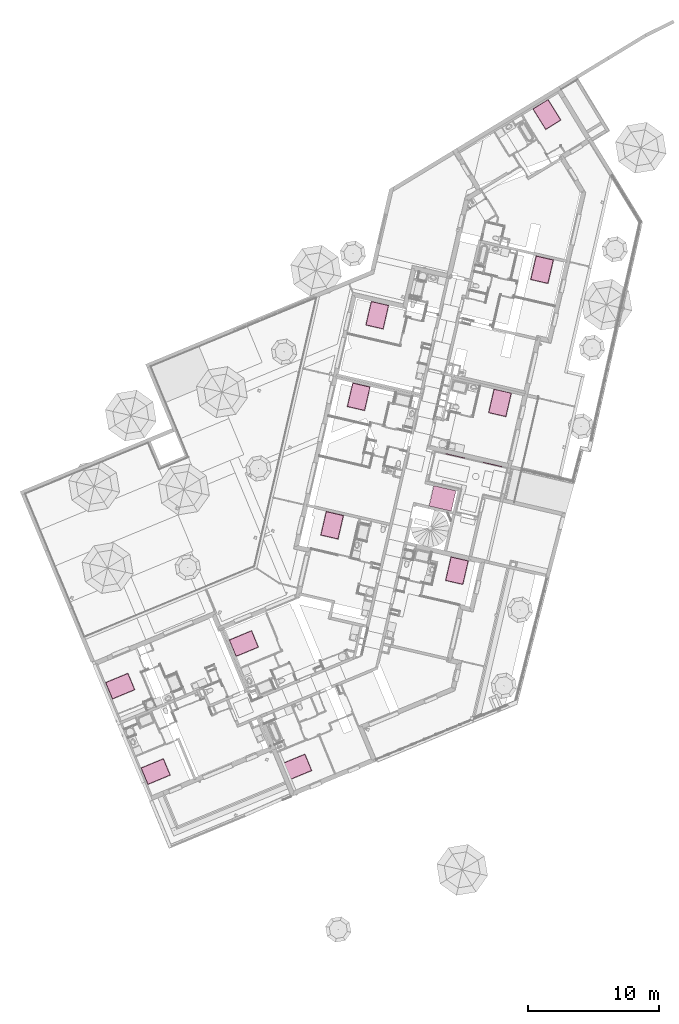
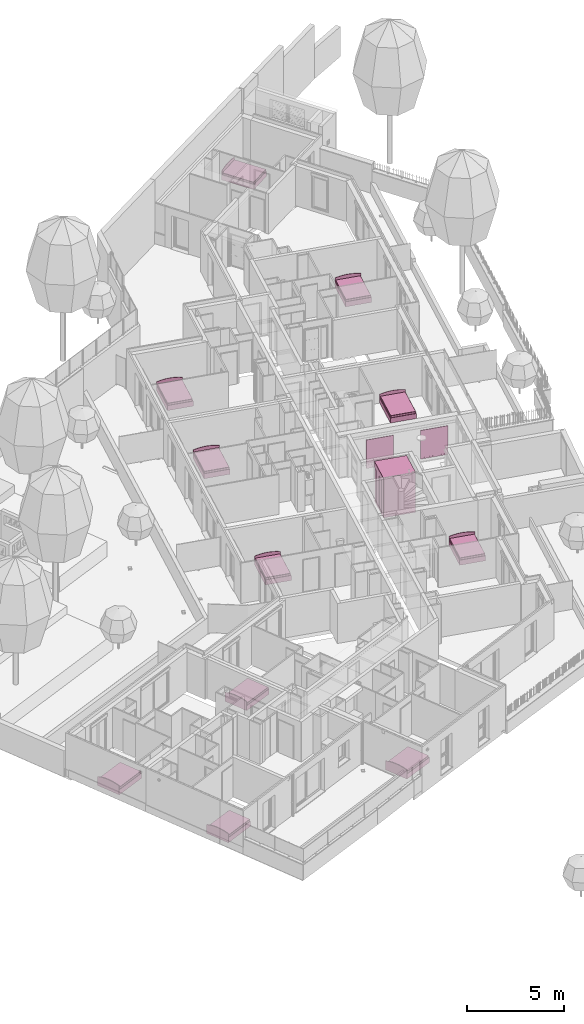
# One storey, part 117 of 119: 13 furnishings, 1 transport element.
"""IFC2X3 building model written with IfcOpenShell, lengths in metres."""

from ifc_helpers import new_model, entity, si_unit, converted_unit, derived_unit, money_unit, direction, frame, origin_with_axes, place, context, subcontext, project, spatial, faceted_brep, source, transform, mapped, type_object, element, save


model = new_model("IFC2X3")

# Units and contexts
model_context = context("Model", 3, precision=1e-05, world=origin_with_axes(), true_north=direction((0.0, 1.0)))
body_context = subcontext(model_context, "Body", "Model", "MODEL_VIEW")
ifc_project = project(units=[si_unit("LENGTHUNIT", "METRE"), si_unit("AREAUNIT", "SQUARE_METRE"), si_unit("VOLUMEUNIT", "CUBIC_METRE"), converted_unit("PLANEANGLEUNIT", "DEGREE", entity("IfcPlaneAngleMeasure", 0.0174532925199), si_unit("PLANEANGLEUNIT", "RADIAN"), dimensions=[0, 0, 0, 0, 0, 0, 0]), si_unit("SOLIDANGLEUNIT", "STERADIAN"), money_unit("EUR"), converted_unit("TIMEUNIT", "Year", entity("IfcTimeMeasure", 31556926.0), si_unit("TIMEUNIT", "SECOND"), dimensions=[0, 0, 1, 0, 0, 0, 0]), si_unit("MASSUNIT", "GRAM", prefix="KILO"), si_unit("THERMODYNAMICTEMPERATUREUNIT", "DEGREE_CELSIUS"), si_unit("LUMINOUSINTENSITYUNIT", "LUMEN"), si_unit("ENERGYUNIT", "JOULE", prefix="MEGA"), derived_unit("THERMALCONDUCTANCEUNIT", [(si_unit("POWERUNIT", "WATT"), 1), (si_unit("LENGTHUNIT", "METRE"), -1), (si_unit("THERMODYNAMICTEMPERATUREUNIT", "KELVIN"), -1)]), derived_unit("SPECIFICHEATCAPACITYUNIT", [(si_unit("ENERGYUNIT", "JOULE"), 1), (si_unit("MASSUNIT", "GRAM", prefix="KILO"), -1), (si_unit("THERMODYNAMICTEMPERATUREUNIT", "KELVIN"), -1)]), derived_unit("MASSDENSITYUNIT", [(si_unit("MASSUNIT", "GRAM", prefix="KILO"), 1), (si_unit("VOLUMEUNIT", "CUBIC_METRE"), -1)])], contexts=[model_context])

# Site, building, storey
site_placement = place(None, origin_with_axes())
site = spatial("IfcSite", under=ifc_project, at=site_placement, Name="Site", CompositionType="ELEMENT")
building_placement = place(site_placement, origin_with_axes())
building = spatial("IfcBuilding", under=site, at=building_placement, Name="Bâtiment", CompositionType="ELEMENT")
storey_placement = place(building_placement, origin_with_axes())
storey = spatial("IfcBuildingStorey", under=building, at=storey_placement, Name="Rez-de-chaussée", CompositionType="ELEMENT", Elevation=0.0)

# Furnishings
furniture_type = type_object("IfcFurnitureType", Name="Lit double 23", AssemblyPlace="NOTDEFINED")
shared_shape_1 = source(origin_with_axes(), body_context, "Body", "Brep", [
    faceted_brep([(0.0, 1.9, 0.0), (1.4, 1.9, 0.0), (1.4, 1.87, 0.0), (0.0, 1.87, 0.0), (0.0, 1.9, 0.56), (0.229826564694, 1.9, 0.615389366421), (0.463857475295, 1.9, 0.64882235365), (0.7, 1.9, 0.66), (0.936142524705, 1.9, 0.64882235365), (1.17017343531, 1.9, 0.615389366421), (1.4, 1.9, 0.56), (1.4, 1.9, 0.5599), (1.4, 1.87, 0.5599), (1.4, 1.87, 0.56), (1.17017343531, 1.87, 0.615389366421), (0.936142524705, 1.87, 0.64882235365), (0.7, 1.87, 0.66), (0.463857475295, 1.87, 0.64882235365), (0.229826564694, 1.87, 0.615389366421), (0.0, 1.87, 0.56)], [[[0, 1, 2, 3]], [[0, 4, 5, 6, 7, 8, 9, 10, 11, 1]], [[1, 11, 12, 2]], [[3, 2, 12, 13, 14, 15, 16, 17, 18, 19]], [[4, 0, 3, 19]], [[5, 4, 19, 18]], [[6, 5, 18, 17]], [[7, 6, 17, 16]], [[8, 7, 16, 15]], [[9, 8, 15, 14]], [[10, 9, 14, 13]], [[11, 10, 13, 12]]]),
    faceted_brep([(1.4, 0.0, 0.0), (0.0, 0.0, 0.0), (0.0, 1.87, 0.0), (1.4, 1.87, 0.0), (1.4, 0.0, 0.32), (0.0, 0.0, 0.32), (0.0, 1.87, 0.32), (1.4, 1.87, 0.32)], [[[0, 1, 2, 3]], [[1, 0, 4, 5]], [[2, 1, 5, 6]], [[3, 2, 6, 7]], [[0, 3, 7, 4]], [[5, 4, 7, 6]]]),
    faceted_brep([(0.02, 0.04, 0.35), (0.02, 1.85, 0.35), (0.0215224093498, 1.85765366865, 0.35), (0.0258578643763, 1.86414213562, 0.35), (0.0323463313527, 1.86847759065, 0.35), (0.04, 1.87, 0.35), (1.36, 1.87, 0.35), (1.36765366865, 1.86847759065, 0.35), (1.37414213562, 1.86414213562, 0.35), (1.37847759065, 1.85765366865, 0.35), (1.38, 1.85, 0.35), (1.38, 0.04, 0.35), (1.37847759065, 0.0323463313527, 0.35), (1.37414213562, 0.0258578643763, 0.35), (1.36765366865, 0.0215224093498, 0.35), (1.36, 0.02, 0.35), (0.04, 0.02, 0.35), (0.0323463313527, 0.0215224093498, 0.35), (0.0258578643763, 0.0258578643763, 0.35), (0.0215224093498, 0.0323463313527, 0.35), (0.0199999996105, 0.0400000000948, 0.42), (0.0199999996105, 1.84999999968, 0.42), (0.0215224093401, 1.85765366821, 0.42), (0.0258578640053, 1.86414213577, 0.42), (0.0323463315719, 1.86847759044, 0.42), (0.0400000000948, 1.87000000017, 0.42), (1.36000000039, 1.87000000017, 0.42), (1.36765366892, 1.86847759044, 0.42), (1.37414213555, 1.86414213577, 0.42), (1.37847759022, 1.85765366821, 0.42), (1.37999999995, 1.84999999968, 0.42), (1.37999999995, 0.0400000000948, 0.42), (1.37847759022, 0.0323463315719, 0.42), (1.37414213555, 0.0258578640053, 0.42), (1.36765366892, 0.0215224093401, 0.42), (1.36000000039, 0.0199999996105, 0.42), (0.0400000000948, 0.0199999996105, 0.42), (0.0323463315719, 0.0215224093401, 0.42), (0.0258578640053, 0.0258578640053, 0.42), (0.0215224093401, 0.0323463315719, 0.42), (0.0215224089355, 0.0401499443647, 0.427653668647), (0.0215224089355, 1.84985005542, 0.427653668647), (0.0229564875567, 1.85705965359, 0.427653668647), (0.0269554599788, 1.8630445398, 0.427653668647), (0.0329403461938, 1.86704351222, 0.427653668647), (0.0401499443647, 1.86847759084, 0.427653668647), (1.35985005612, 1.86847759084, 0.427653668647), (1.36705965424, 1.86704351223, 0.427653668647), (1.37304453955, 1.86304453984, 0.427653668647), (1.377043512, 1.85705965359, 0.427653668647), (1.37847759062, 1.84985005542, 0.427653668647), (1.37847759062, 0.0401499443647, 0.427653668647), (1.377043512, 0.0329403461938, 0.427653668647), (1.37304453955, 0.0269554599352, 0.427653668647), (1.36705965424, 0.0229564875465, 0.427653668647), (1.35985005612, 0.0215224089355, 0.427653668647), (0.0401499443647, 0.0215224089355, 0.427653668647), (0.0329403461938, 0.0229564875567, 0.427653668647), (0.0269554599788, 0.0269554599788, 0.427653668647), (0.0229564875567, 0.0329403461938, 0.427653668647), (0.0323463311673, 0.0412160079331, 0.43847759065), (0.0323463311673, 1.84878399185, 0.43847759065), (0.0331523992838, 1.85283636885, 0.43847759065), (0.0347590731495, 1.85524092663, 0.43847759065), (0.0371636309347, 1.8568476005, 0.43847759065), (0.0412160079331, 1.85765366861, 0.43847759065), (1.35878399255, 1.85765366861, 0.43847759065), (1.36283636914, 1.85684760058, 0.43847759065), (1.36524092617, 1.85524092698, 0.43847759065), (1.36684760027, 1.85283636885, 0.43847759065), (1.36765366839, 1.84878399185, 0.43847759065), (1.36765366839, 0.0412160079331, 0.43847759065), (1.36684760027, 0.0371636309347, 0.43847759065), (1.36524092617, 0.0347590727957, 0.43847759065), (1.36283636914, 0.0331523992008, 0.43847759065), (1.35878399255, 0.0323463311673, 0.43847759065), (0.0412160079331, 0.0323463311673, 0.43847759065), (0.0371636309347, 0.0331523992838, 0.43847759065), (0.0347590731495, 0.0347590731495, 0.43847759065), (0.0331523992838, 0.0371636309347, 0.43847759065), (0.0400000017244, 0.0419698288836, 0.44000000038), (0.0400000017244, 1.8480301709, 0.44000000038), (0.0403268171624, 1.84967318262, 0.44000000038), (0.0399999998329, 1.84999999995, 0.439923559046), (0.0419698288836, 1.84999999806, 0.44000000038), (1.3580301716, 1.84999999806, 0.44000000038), (1.35967318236, 1.84967318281, 0.44000000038), (1.35999999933, 1.84999999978, 0.439923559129), (1.35999999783, 1.8480301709, 0.44000000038), (1.35999999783, 0.0419698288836, 0.44000000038), (1.35967318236, 0.0403268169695, 0.44000000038), (1.35999999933, 0.0399999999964, 0.439923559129), (1.3580301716, 0.0400000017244, 0.44000000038), (0.0419698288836, 0.0400000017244, 0.44000000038), (0.0403268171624, 0.0403268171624, 0.44000000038), (0.0399999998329, 0.0399999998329, 0.439923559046)], [[[0, 1, 2, 3, 4, 5, 6, 7, 8, 9, 10, 11, 12, 13, 14, 15, 16, 17, 18, 19]], [[1, 0, 20, 21]], [[2, 1, 21, 22]], [[3, 2, 22, 23]], [[4, 3, 23, 24]], [[5, 4, 24, 25]], [[6, 5, 25, 26]], [[7, 6, 26, 27]], [[8, 7, 27, 28]], [[9, 8, 28, 29]], [[10, 9, 29, 30]], [[11, 10, 30, 31]], [[12, 11, 31, 32]], [[13, 12, 32, 33]], [[14, 13, 33, 34]], [[15, 14, 34, 35]], [[16, 15, 35, 36]], [[17, 16, 36, 37]], [[18, 17, 37, 38]], [[19, 18, 38, 39]], [[0, 19, 39, 20]], [[21, 20, 40, 41]], [[22, 21, 41, 42]], [[23, 22, 42, 43]], [[24, 23, 43, 44]], [[25, 24, 44, 45]], [[26, 25, 45, 46]], [[27, 26, 46, 47]], [[28, 27, 47, 48]], [[29, 28, 48, 49]], [[30, 29, 49, 50]], [[31, 30, 50, 51]], [[32, 31, 51, 52]], [[33, 32, 52, 53]], [[34, 33, 53, 54]], [[35, 34, 54, 55]], [[36, 35, 55, 56]], [[37, 36, 56, 57]], [[38, 37, 57, 58]], [[39, 38, 58, 59]], [[20, 39, 59, 40]], [[41, 40, 60, 61]], [[42, 41, 61, 62]], [[43, 42, 62, 63]], [[44, 43, 63, 64]], [[45, 44, 64, 65]], [[46, 45, 65, 66]], [[47, 46, 66, 67]], [[48, 47, 67, 68]], [[49, 48, 68, 69]], [[50, 49, 69, 70]], [[51, 50, 70, 71]], [[52, 51, 71, 72]], [[53, 52, 72, 73]], [[54, 53, 73, 74]], [[55, 54, 74, 75]], [[56, 55, 75, 76]], [[57, 56, 76, 77]], [[58, 57, 77, 78]], [[59, 58, 78, 79]], [[40, 59, 79, 60]], [[61, 60, 80, 81]], [[62, 61, 81, 82, 83]], [[63, 62, 83]], [[64, 63, 83]], [[65, 64, 83, 82, 84]], [[66, 65, 84, 85]], [[67, 66, 85, 86, 87]], [[68, 67, 87]], [[69, 68, 87]], [[70, 69, 87, 86, 88]], [[71, 70, 88, 89]], [[72, 71, 89, 90, 91]], [[73, 72, 91]], [[74, 73, 91]], [[75, 74, 91, 90, 92]], [[76, 75, 92, 93]], [[77, 76, 93, 94, 95]], [[78, 77, 95]], [[79, 78, 95]], [[60, 79, 95, 94, 80]], [[81, 80, 94, 93, 92, 90, 89, 88, 86, 85, 84, 82]]]),
    faceted_brep([(0.02, 0.04, 0.35), (0.0215224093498, 0.0323463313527, 0.35), (0.0258578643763, 0.0258578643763, 0.35), (0.0323463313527, 0.0215224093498, 0.35), (0.04, 0.02, 0.35), (1.36, 0.02, 0.35), (1.36765366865, 0.0215224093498, 0.35), (1.37414213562, 0.0258578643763, 0.35), (1.37847759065, 0.0323463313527, 0.35), (1.38, 0.04, 0.35), (1.38, 1.85, 0.35), (1.37847759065, 1.85765366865, 0.35), (1.37414213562, 1.86414213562, 0.35), (1.36765366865, 1.86847759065, 0.35), (1.36, 1.87, 0.35), (0.04, 1.87, 0.35), (0.0323463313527, 1.86847759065, 0.35), (0.0258578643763, 1.86414213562, 0.35), (0.0215224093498, 1.85765366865, 0.35), (0.02, 1.85, 0.35), (0.0199999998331, 0.0400000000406, 0.32), (0.0215224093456, 0.0323463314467, 0.32), (0.0258578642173, 0.0258578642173, 0.32), (0.0323463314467, 0.0215224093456, 0.32), (0.0400000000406, 0.0199999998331, 0.32), (1.36000000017, 0.0199999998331, 0.32), (1.36765366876, 0.0215224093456, 0.32), (1.37414213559, 0.0258578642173, 0.32), (1.37847759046, 0.0323463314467, 0.32), (1.37999999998, 0.0400000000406, 0.32), (1.37999999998, 1.84999999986, 0.32), (1.37847759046, 1.85765366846, 0.32), (1.37414213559, 1.86414213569, 0.32), (1.36765366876, 1.86847759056, 0.32), (1.36000000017, 1.87000000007, 0.32), (0.0400000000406, 1.87000000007, 0.32), (0.0323463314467, 1.86847759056, 0.32), (0.0258578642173, 1.86414213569, 0.32), (0.0215224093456, 1.85765366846, 0.32), (0.0199999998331, 1.84999999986, 0.32)], [[[0, 1, 2, 3, 4, 5, 6, 7, 8, 9, 10, 11, 12, 13, 14, 15, 16, 17, 18, 19]], [[0, 20, 21, 1]], [[1, 21, 22, 2]], [[2, 22, 23, 3]], [[3, 23, 24, 4]], [[4, 24, 25, 5]], [[5, 25, 26, 6]], [[6, 26, 27, 7]], [[7, 27, 28, 8]], [[8, 28, 29, 9]], [[9, 29, 30, 10]], [[10, 30, 31, 11]], [[11, 31, 32, 12]], [[12, 32, 33, 13]], [[13, 33, 34, 14]], [[14, 34, 35, 15]], [[15, 35, 36, 16]], [[16, 36, 37, 17]], [[17, 37, 38, 18]], [[18, 38, 39, 19]], [[19, 39, 20, 0]], [[20, 39, 38, 37, 36, 35, 34, 33, 32, 31, 30, 29, 28, 27, 26, 25, 24, 23, 22, 21]]]),
])
for number, where, z_axis, x_axis, name in (
    (1, (-14.4681545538, 7.8483588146, 0.0), (0.0, 0.0, 1.0), (0.974387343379, -0.224876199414, 0.0), "MOB-002"),
    (2, (-8.3706438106, -11.7000553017, 0.0), (0.0, 0.0, 1.0), (0.974387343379, -0.224876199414, 0.0), "MOB-002"),
    (3, (-15.8879577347, 1.60742158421, 0.0), (0.0, 0.0, 1.0), (0.974387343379, -0.224876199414, 0.0), "MOB-002"),
    (4, (-17.9203593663, -8.22757564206, 0.0), (0.0, 0.0, 1.0), (0.974387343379, -0.224876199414, 0.0), "MOB-002"),
    (5, (-22.6409793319, -16.7982077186, 0.0), (0.0, 0.0, 1.0), (-0.383112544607, 0.923701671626, 0.0), "MOB-002"),
    (6, (-29.3884122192, -26.5927265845, 0.0), (0.0, 0.0, 1.0), (-0.383112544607, 0.923701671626, 0.0), "MOB-002"),
    (7, (-32.1025411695, -20.056665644, 0.0), (0.0, 0.0, 1.0), (-0.383112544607, 0.923701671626, 0.0), "MOB-002"),
    (8, (-18.5614836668, -26.2425264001, 0.0), (0.0, 0.0, 1.0), (-0.383112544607, 0.923701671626, 0.0), "MOB-002"),
    (9, (-5.07635258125, 1.13960423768, 0.0), (0.0, 0.0, 1.0), (0.974387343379, -0.224876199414, 0.0), "MOB-002"),
):
    element("IfcFurnishingElement", number, at=place(storey_placement, frame(where, z_axis=z_axis, x_axis=x_axis)), inside=storey, type_object=furniture_type, Name=name, ObjectType="BED", context=body_context, shape_type="MappedRepresentation", body=[
        mapped(shared_shape_1, transform((0.0, 0.0, 0.0))),
    ])
shared_shape_2 = source(origin_with_axes(), body_context, "Body", "Brep", [
    faceted_brep([(0.0, 1.9, 0.0), (0.0, 1.87, 0.0), (-1.4, 1.87, 0.0), (-1.4, 1.9, 0.0), (0.0, 1.9, 0.56), (0.0, 1.87, 0.56), (-0.229826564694, 1.87, 0.615389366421), (-0.463857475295, 1.87, 0.64882235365), (-0.7, 1.87, 0.66), (-0.936142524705, 1.87, 0.64882235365), (-1.17017343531, 1.87, 0.615389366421), (-1.4, 1.87, 0.56), (-1.4, 1.87, 0.5599), (-1.4, 1.9, 0.5599), (-1.4, 1.9, 0.56), (-1.17017343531, 1.9, 0.615389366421), (-0.936142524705, 1.9, 0.64882235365), (-0.7, 1.9, 0.66), (-0.463857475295, 1.9, 0.64882235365), (-0.229826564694, 1.9, 0.615389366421)], [[[0, 1, 2, 3]], [[4, 5, 1, 0]], [[1, 5, 6, 7, 8, 9, 10, 11, 12, 2]], [[3, 2, 12, 13]], [[0, 3, 13, 14, 15, 16, 17, 18, 19, 4]], [[19, 6, 5, 4]], [[18, 7, 6, 19]], [[17, 8, 7, 18]], [[16, 9, 8, 17]], [[15, 10, 9, 16]], [[14, 11, 10, 15]], [[13, 12, 11, 14]]]),
    faceted_brep([(-1.4, 0.0, 0.0), (-1.4, 1.87, 0.0), (0.0, 1.87, 0.0), (0.0, 0.0, 0.0), (-1.4, 0.0, 0.32), (-1.4, 1.87, 0.32), (0.0, 1.87, 0.32), (0.0, 0.0, 0.32)], [[[0, 1, 2, 3]], [[0, 4, 5, 1]], [[1, 5, 6, 2]], [[2, 6, 7, 3]], [[3, 7, 4, 0]], [[7, 6, 5, 4]]]),
    faceted_brep([(-0.02, 0.04, 0.35), (-0.0215224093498, 0.0323463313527, 0.35), (-0.0258578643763, 0.0258578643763, 0.35), (-0.0323463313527, 0.0215224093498, 0.35), (-0.04, 0.02, 0.35), (-1.36, 0.02, 0.35), (-1.36765366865, 0.0215224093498, 0.35), (-1.37414213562, 0.0258578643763, 0.35), (-1.37847759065, 0.0323463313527, 0.35), (-1.38, 0.04, 0.35), (-1.38, 1.85, 0.35), (-1.37847759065, 1.85765366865, 0.35), (-1.37414213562, 1.86414213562, 0.35), (-1.36765366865, 1.86847759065, 0.35), (-1.36, 1.87, 0.35), (-0.04, 1.87, 0.35), (-0.0323463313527, 1.86847759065, 0.35), (-0.0258578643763, 1.86414213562, 0.35), (-0.0215224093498, 1.85765366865, 0.35), (-0.02, 1.85, 0.35), (-0.0199999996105, 0.0400000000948, 0.42), (-0.0215224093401, 0.0323463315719, 0.42), (-0.0258578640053, 0.0258578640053, 0.42), (-0.0323463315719, 0.0215224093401, 0.42), (-0.0400000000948, 0.0199999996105, 0.42), (-1.36000000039, 0.0199999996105, 0.42), (-1.36765366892, 0.0215224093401, 0.42), (-1.37414213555, 0.0258578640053, 0.42), (-1.37847759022, 0.0323463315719, 0.42), (-1.37999999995, 0.0400000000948, 0.42), (-1.37999999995, 1.84999999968, 0.42), (-1.37847759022, 1.85765366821, 0.42), (-1.37414213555, 1.86414213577, 0.42), (-1.36765366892, 1.86847759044, 0.42), (-1.36000000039, 1.87000000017, 0.42), (-0.0400000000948, 1.87000000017, 0.42), (-0.0323463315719, 1.86847759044, 0.42), (-0.0258578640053, 1.86414213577, 0.42), (-0.0215224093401, 1.85765366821, 0.42), (-0.0199999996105, 1.84999999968, 0.42), (-0.0215224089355, 0.0401499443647, 0.427653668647), (-0.0229564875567, 0.0329403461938, 0.427653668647), (-0.0269554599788, 0.0269554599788, 0.427653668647), (-0.0329403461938, 0.0229564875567, 0.427653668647), (-0.0401499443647, 0.0215224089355, 0.427653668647), (-1.35985005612, 0.0215224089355, 0.427653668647), (-1.36705965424, 0.0229564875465, 0.427653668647), (-1.37304453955, 0.0269554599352, 0.427653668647), (-1.377043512, 0.0329403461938, 0.427653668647), (-1.37847759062, 0.0401499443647, 0.427653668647), (-1.37847759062, 1.84985005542, 0.427653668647), (-1.377043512, 1.85705965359, 0.427653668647), (-1.37304453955, 1.86304453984, 0.427653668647), (-1.36705965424, 1.86704351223, 0.427653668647), (-1.35985005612, 1.86847759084, 0.427653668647), (-0.0401499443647, 1.86847759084, 0.427653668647), (-0.0329403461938, 1.86704351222, 0.427653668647), (-0.0269554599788, 1.8630445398, 0.427653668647), (-0.0229564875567, 1.85705965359, 0.427653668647), (-0.0215224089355, 1.84985005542, 0.427653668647), (-0.0323463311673, 0.0412160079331, 0.43847759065), (-0.0331523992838, 0.0371636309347, 0.43847759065), (-0.0347590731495, 0.0347590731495, 0.43847759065), (-0.0371636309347, 0.0331523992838, 0.43847759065), (-0.0412160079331, 0.0323463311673, 0.43847759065), (-1.35878399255, 0.0323463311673, 0.43847759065), (-1.36283636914, 0.0331523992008, 0.43847759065), (-1.36524092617, 0.0347590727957, 0.43847759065), (-1.36684760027, 0.0371636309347, 0.43847759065), (-1.36765366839, 0.0412160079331, 0.43847759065), (-1.36765366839, 1.84878399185, 0.43847759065), (-1.36684760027, 1.85283636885, 0.43847759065), (-1.36524092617, 1.85524092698, 0.43847759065), (-1.36283636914, 1.85684760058, 0.43847759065), (-1.35878399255, 1.85765366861, 0.43847759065), (-0.0412160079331, 1.85765366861, 0.43847759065), (-0.0371636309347, 1.8568476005, 0.43847759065), (-0.0347590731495, 1.85524092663, 0.43847759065), (-0.0331523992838, 1.85283636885, 0.43847759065), (-0.0323463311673, 1.84878399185, 0.43847759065), (-0.0400000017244, 0.0419698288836, 0.44000000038), (-0.0403268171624, 0.0403268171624, 0.44000000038), (-0.0399999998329, 0.0399999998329, 0.439923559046), (-0.0419698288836, 0.0400000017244, 0.44000000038), (-1.3580301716, 0.0400000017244, 0.44000000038), (-1.35967318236, 0.0403268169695, 0.44000000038), (-1.35999999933, 0.0399999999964, 0.439923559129), (-1.35999999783, 0.0419698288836, 0.44000000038), (-1.35999999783, 1.8480301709, 0.44000000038), (-1.35967318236, 1.84967318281, 0.44000000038), (-1.35999999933, 1.84999999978, 0.439923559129), (-1.3580301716, 1.84999999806, 0.44000000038), (-0.0419698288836, 1.84999999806, 0.44000000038), (-0.0403268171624, 1.84967318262, 0.44000000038), (-0.0399999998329, 1.84999999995, 0.439923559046), (-0.0400000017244, 1.8480301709, 0.44000000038)], [[[0, 1, 2, 3, 4, 5, 6, 7, 8, 9, 10, 11, 12, 13, 14, 15, 16, 17, 18, 19]], [[0, 20, 21, 1]], [[1, 21, 22, 2]], [[2, 22, 23, 3]], [[3, 23, 24, 4]], [[4, 24, 25, 5]], [[5, 25, 26, 6]], [[6, 26, 27, 7]], [[7, 27, 28, 8]], [[8, 28, 29, 9]], [[9, 29, 30, 10]], [[10, 30, 31, 11]], [[11, 31, 32, 12]], [[12, 32, 33, 13]], [[13, 33, 34, 14]], [[14, 34, 35, 15]], [[15, 35, 36, 16]], [[16, 36, 37, 17]], [[17, 37, 38, 18]], [[18, 38, 39, 19]], [[19, 39, 20, 0]], [[20, 40, 41, 21]], [[21, 41, 42, 22]], [[22, 42, 43, 23]], [[23, 43, 44, 24]], [[24, 44, 45, 25]], [[25, 45, 46, 26]], [[26, 46, 47, 27]], [[27, 47, 48, 28]], [[28, 48, 49, 29]], [[29, 49, 50, 30]], [[30, 50, 51, 31]], [[31, 51, 52, 32]], [[32, 52, 53, 33]], [[33, 53, 54, 34]], [[34, 54, 55, 35]], [[35, 55, 56, 36]], [[36, 56, 57, 37]], [[37, 57, 58, 38]], [[38, 58, 59, 39]], [[39, 59, 40, 20]], [[40, 60, 61, 41]], [[41, 61, 62, 42]], [[42, 62, 63, 43]], [[43, 63, 64, 44]], [[44, 64, 65, 45]], [[45, 65, 66, 46]], [[46, 66, 67, 47]], [[47, 67, 68, 48]], [[48, 68, 69, 49]], [[49, 69, 70, 50]], [[50, 70, 71, 51]], [[51, 71, 72, 52]], [[52, 72, 73, 53]], [[53, 73, 74, 54]], [[54, 74, 75, 55]], [[55, 75, 76, 56]], [[56, 76, 77, 57]], [[57, 77, 78, 58]], [[58, 78, 79, 59]], [[59, 79, 60, 40]], [[60, 80, 81, 82, 61]], [[61, 82, 62]], [[62, 82, 63]], [[63, 82, 81, 83, 64]], [[64, 83, 84, 65]], [[65, 84, 85, 86, 66]], [[66, 86, 67]], [[67, 86, 68]], [[68, 86, 85, 87, 69]], [[69, 87, 88, 70]], [[70, 88, 89, 90, 71]], [[71, 90, 72]], [[72, 90, 73]], [[73, 90, 89, 91, 74]], [[74, 91, 92, 75]], [[75, 92, 93, 94, 76]], [[76, 94, 77]], [[77, 94, 78]], [[78, 94, 93, 95, 79]], [[79, 95, 80, 60]], [[95, 93, 92, 91, 89, 88, 87, 85, 84, 83, 81, 80]]]),
    faceted_brep([(-0.02, 0.04, 0.35), (-0.02, 1.85, 0.35), (-0.0215224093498, 1.85765366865, 0.35), (-0.0258578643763, 1.86414213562, 0.35), (-0.0323463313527, 1.86847759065, 0.35), (-0.04, 1.87, 0.35), (-1.36, 1.87, 0.35), (-1.36765366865, 1.86847759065, 0.35), (-1.37414213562, 1.86414213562, 0.35), (-1.37847759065, 1.85765366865, 0.35), (-1.38, 1.85, 0.35), (-1.38, 0.04, 0.35), (-1.37847759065, 0.0323463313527, 0.35), (-1.37414213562, 0.0258578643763, 0.35), (-1.36765366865, 0.0215224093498, 0.35), (-1.36, 0.02, 0.35), (-0.04, 0.02, 0.35), (-0.0323463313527, 0.0215224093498, 0.35), (-0.0258578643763, 0.0258578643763, 0.35), (-0.0215224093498, 0.0323463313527, 0.35), (-0.0199999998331, 0.0400000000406, 0.32), (-0.0199999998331, 1.84999999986, 0.32), (-0.0215224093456, 1.85765366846, 0.32), (-0.0258578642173, 1.86414213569, 0.32), (-0.0323463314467, 1.86847759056, 0.32), (-0.0400000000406, 1.87000000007, 0.32), (-1.36000000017, 1.87000000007, 0.32), (-1.36765366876, 1.86847759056, 0.32), (-1.37414213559, 1.86414213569, 0.32), (-1.37847759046, 1.85765366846, 0.32), (-1.37999999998, 1.84999999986, 0.32), (-1.37999999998, 0.0400000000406, 0.32), (-1.37847759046, 0.0323463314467, 0.32), (-1.37414213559, 0.0258578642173, 0.32), (-1.36765366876, 0.0215224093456, 0.32), (-1.36000000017, 0.0199999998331, 0.32), (-0.0400000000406, 0.0199999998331, 0.32), (-0.0323463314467, 0.0215224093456, 0.32), (-0.0258578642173, 0.0258578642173, 0.32), (-0.0215224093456, 0.0323463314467, 0.32)], [[[0, 1, 2, 3, 4, 5, 6, 7, 8, 9, 10, 11, 12, 13, 14, 15, 16, 17, 18, 19]], [[1, 0, 20, 21]], [[2, 1, 21, 22]], [[3, 2, 22, 23]], [[4, 3, 23, 24]], [[5, 4, 24, 25]], [[6, 5, 25, 26]], [[7, 6, 26, 27]], [[8, 7, 27, 28]], [[9, 8, 28, 29]], [[10, 9, 29, 30]], [[11, 10, 30, 31]], [[12, 11, 31, 32]], [[13, 12, 32, 33]], [[14, 13, 33, 34]], [[15, 14, 34, 35]], [[16, 15, 35, 36]], [[17, 16, 36, 37]], [[18, 17, 37, 38]], [[19, 18, 38, 39]], [[0, 19, 39, 20]], [[20, 39, 38, 37, 36, 35, 34, 33, 32, 31, 30, 29, 28, 27, 26, 25, 24, 23, 22, 21]]]),
])
for number, where, z_axis, x_axis, name in (
    (10, (0.501939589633, 23.5376664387, 0.0), (0.0, 0.0, 1.0), (0.848007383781, 0.529984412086, 0.0), "MOB-002"),
    (11, (-0.493133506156, 11.0118005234, 0.0), (0.0, 0.0, 1.0), (0.974387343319, -0.224876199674, 0.0), "MOB-002"),
):
    element("IfcFurnishingElement", number, at=place(storey_placement, frame(where, z_axis=z_axis, x_axis=x_axis)), inside=storey, type_object=furniture_type, Name=name, ObjectType="BED", context=body_context, shape_type="MappedRepresentation", body=[
        mapped(shared_shape_2, transform((0.0, 0.0, 0.0))),
    ])

# Transport element
transport_element_type = type_object("IfcTransportElementType", Name="Ascenseur 23", PredefinedType="ELEVATOR")
shared_shape_3 = source(origin_with_axes(), body_context, "Body", "Brep", [
    faceted_brep([(0.95, 0.21, 0.0), (0.5, 0.21, 0.0), (0.5, 0.21, 2.1), (0.95, 0.21, 2.1), (0.95, 0.19, 0.0), (0.5, 0.19, 0.0), (0.5, 0.19, 2.1), (0.95, 0.19, 2.1)], [[[0, 1, 2, 3]], [[1, 0, 4, 5]], [[2, 1, 5, 6]], [[3, 2, 6, 7]], [[0, 3, 7, 4]], [[5, 4, 7, 6]]]),
    faceted_brep([(1.4, 0.23, 0.0), (0.95, 0.23, 0.0), (0.95, 0.23, 2.1), (1.4, 0.23, 2.1), (1.4, 0.21, 0.0), (0.95, 0.21, 0.0), (0.95, 0.21, 2.1), (1.4, 0.21, 2.1)], [[[0, 1, 2, 3]], [[1, 0, 4, 5]], [[2, 1, 5, 6]], [[3, 2, 6, 7]], [[0, 3, 7, 4]], [[5, 4, 7, 6]]]),
    faceted_brep([(1.4, 0.27, 0.0), (1.669, 0.27, 0.0), (1.669, 1.85, 0.0), (0.231, 1.85, 0.0), (0.231, 0.27, 0.0), (0.5, 0.27, 0.0), (0.5, 0.23, 0.0), (0.151, 0.23, 0.0), (0.151, 1.93, 0.0), (1.749, 1.93, 0.0), (1.749, 0.19, 0.0), (1.4, 0.19, 0.0), (0.231, 0.27, 2.4), (1.669, 0.27, 2.4), (1.4, 0.27, 2.1), (0.5, 0.27, 2.1), (1.669, 1.85, 2.4), (0.231, 1.85, 2.4), (0.5, 0.23, 2.1), (0.151, 0.23, 2.1), (0.151, 0.19, 2.1), (0.151, 0.19, 2.4), (0.151, 1.93, 2.4), (1.749, 1.93, 2.4), (1.749, 0.19, 2.4), (1.4, 0.19, 2.1)], [[[0, 1, 2, 3, 4, 5, 6, 7, 8, 9, 10, 11]], [[12, 13, 1, 0, 14, 15, 5, 4]], [[13, 16, 2, 1]], [[16, 17, 3, 2]], [[17, 12, 4, 3]], [[5, 15, 18, 6]], [[18, 19, 7, 6]], [[19, 20, 21, 22, 8, 7]], [[23, 9, 8, 22]], [[24, 10, 9, 23]], [[21, 20, 25, 11, 10, 24]], [[14, 0, 11, 25]], [[22, 21, 24, 23], [12, 17, 16, 13]], [[15, 14, 25, 20, 19, 18]]]),
    faceted_brep([(0.151, 0.19, -0.05), (1.749, 0.19, -0.05), (1.749, 0.19, 0.0), (0.151, 0.19, 0.0), (0.151, 1.93, -0.05), (1.749, 1.93, -0.05), (1.749, 1.93, 0.0), (0.151, 1.93, 0.0)], [[[0, 1, 2, 3]], [[0, 4, 5, 1]], [[1, 5, 6, 2]], [[3, 2, 6, 7]], [[4, 0, 3, 7]], [[5, 4, 7, 6]]]),
    faceted_brep([(0.151, 0.19, 2.4), (1.749, 0.19, 2.4), (1.749, 0.19, 2.45), (0.151, 0.19, 2.45), (0.151, 1.93, 2.4), (1.749, 1.93, 2.4), (1.749, 1.93, 2.45), (0.151, 1.93, 2.45)], [[[0, 1, 2, 3]], [[0, 4, 5, 1]], [[1, 5, 6, 2]], [[3, 2, 6, 7]], [[4, 0, 3, 7]], [[5, 4, 7, 6]]]),
    faceted_brep([(1.669, 0.37, 1.0), (1.669, 0.47, 1.0), (1.669, 0.47, 1.075), (1.669, 0.37, 1.075), (1.659, 0.37, 1.0), (1.659, 0.47, 1.0), (1.659, 0.47, 1.075), (1.659, 0.37, 1.075)], [[[0, 1, 2, 3]], [[1, 0, 4, 5]], [[2, 1, 5, 6]], [[3, 2, 6, 7]], [[0, 3, 7, 4]], [[5, 4, 7, 6]]]),
    faceted_brep([(1.659, 0.450428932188, 1.00542893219), (1.659, 0.450428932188, 1.01957106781), (1.654, 0.451843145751, 1.01815685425), (1.654, 0.451843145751, 1.00684314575), (1.659, 0.464571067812, 1.00542893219), (1.659, 0.464571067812, 1.01957106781), (1.654, 0.463156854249, 1.01815685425), (1.654, 0.463156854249, 1.00684314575)], [[[0, 1, 2, 3]], [[0, 4, 5, 1]], [[1, 5, 6, 2]], [[3, 2, 6, 7]], [[4, 0, 3, 7]], [[5, 4, 7, 6]]]),
    faceted_brep([(1.659, 0.425428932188, 1.00542893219), (1.659, 0.425428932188, 1.01957106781), (1.654, 0.426843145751, 1.01815685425), (1.654, 0.426843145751, 1.00684314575), (1.659, 0.439571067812, 1.00542893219), (1.659, 0.439571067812, 1.01957106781), (1.654, 0.438156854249, 1.01815685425), (1.654, 0.438156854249, 1.00684314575)], [[[0, 1, 2, 3]], [[0, 4, 5, 1]], [[1, 5, 6, 2]], [[3, 2, 6, 7]], [[4, 0, 3, 7]], [[5, 4, 7, 6]]]),
    faceted_brep([(1.659, 0.400428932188, 1.00542893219), (1.659, 0.400428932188, 1.01957106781), (1.654, 0.401843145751, 1.01815685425), (1.654, 0.401843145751, 1.00684314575), (1.659, 0.414571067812, 1.00542893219), (1.659, 0.414571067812, 1.01957106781), (1.654, 0.413156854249, 1.01815685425), (1.654, 0.413156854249, 1.00684314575)], [[[0, 1, 2, 3]], [[0, 4, 5, 1]], [[1, 5, 6, 2]], [[3, 2, 6, 7]], [[4, 0, 3, 7]], [[5, 4, 7, 6]]]),
    faceted_brep([(1.659, 0.375428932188, 1.00542893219), (1.659, 0.375428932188, 1.01957106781), (1.654, 0.376843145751, 1.01815685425), (1.654, 0.376843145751, 1.00684314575), (1.659, 0.389571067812, 1.00542893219), (1.659, 0.389571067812, 1.01957106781), (1.654, 0.388156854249, 1.01815685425), (1.654, 0.388156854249, 1.00684314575)], [[[0, 1, 2, 3]], [[0, 4, 5, 1]], [[1, 5, 6, 2]], [[3, 2, 6, 7]], [[4, 0, 3, 7]], [[5, 4, 7, 6]]]),
    faceted_brep([(1.659, 0.450428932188, 1.05542893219), (1.659, 0.450428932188, 1.06957106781), (1.654, 0.451843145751, 1.06815685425), (1.654, 0.451843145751, 1.05684314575), (1.659, 0.464571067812, 1.05542893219), (1.659, 0.464571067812, 1.06957106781), (1.654, 0.463156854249, 1.06815685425), (1.654, 0.463156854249, 1.05684314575)], [[[0, 1, 2, 3]], [[0, 4, 5, 1]], [[1, 5, 6, 2]], [[3, 2, 6, 7]], [[4, 0, 3, 7]], [[5, 4, 7, 6]]]),
])
transport_element_placement = place(storey_placement, frame((-9.39707466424, -4.24324675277, 0.0), z_axis=(0.0, 0.0, 1.0), x_axis=(-0.224876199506, -0.974387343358, 0.0)))
element("IfcTransportElement", 12, at=transport_element_placement, inside=storey, type_object=transport_element_type, Name="MOB-001", ObjectType="ELEVATOR", context=body_context, shape_type="MappedRepresentation", body=[
    mapped(shared_shape_3, transform((0.0, 0.0, 0.0))),
])

# Furnishings
system_furniture_element_type = type_object("IfcSystemFurnitureElementType", Name="Miroir 23")
shared_shape_4 = source(origin_with_axes(), body_context, "Body", "Brep", [
    faceted_brep([(0.0, 0.03, 0.0), (0.0, 0.0, 0.0), (-0.08, 0.0, 0.08), (-0.08, 0.03, 0.08), (0.0, 0.03, 1.8), (0.0, 0.0, 1.8), (-0.08, 0.0, 1.72), (-0.08, 0.03, 1.72)], [[[0, 1, 2, 3]], [[4, 5, 1, 0]], [[1, 5, 6, 2]], [[3, 2, 6, 7]], [[0, 3, 7, 4]], [[7, 6, 5, 4]]]),
    faceted_brep([(-1.465, 0.03, 0.0), (-1.465, 0.0, 0.0), (-1.465, 0.0, 1.8), (-1.465, 0.03, 1.8), (-1.385, 0.03, 0.08), (-1.385, 0.0, 0.08), (-1.385, 0.0, 1.72), (-1.385, 0.03, 1.72)], [[[0, 1, 2, 3]], [[4, 5, 1, 0]], [[1, 5, 6, 2]], [[3, 2, 6, 7]], [[0, 3, 7, 4]], [[7, 6, 5, 4]]]),
    faceted_brep([(0.0, 0.03, 0.0), (0.0, 0.0, 0.0), (-1.465, 0.0, 0.0), (-1.465, 0.03, 0.0), (-0.08, 0.03, 0.08), (-0.08, 0.0, 0.08), (-1.385, 0.0, 0.08), (-1.385, 0.03, 0.08)], [[[0, 1, 2, 3]], [[4, 5, 1, 0]], [[1, 5, 6, 2]], [[3, 2, 6, 7]], [[0, 3, 7, 4]], [[7, 6, 5, 4]]]),
    faceted_brep([(0.0, 0.03, 1.8), (0.0, 0.0, 1.8), (-0.08, 0.0, 1.72), (-0.08, 0.03, 1.72), (-1.465, 0.03, 1.8), (-1.465, 0.0, 1.8), (-1.385, 0.0, 1.72), (-1.385, 0.03, 1.72)], [[[0, 1, 2, 3]], [[4, 5, 1, 0]], [[1, 5, 6, 2]], [[3, 2, 6, 7]], [[0, 3, 7, 4]], [[7, 6, 5, 4]]]),
    faceted_brep([(-0.08, 0.025, 0.08), (-0.08, 0.005, 0.08), (-1.385, 0.005, 0.08), (-1.385, 0.025, 0.08), (-0.08, 0.025, 1.72), (-0.08, 0.005, 1.72), (-1.385, 0.005, 1.72), (-1.385, 0.025, 1.72)], [[[0, 1, 2, 3]], [[4, 5, 1, 0]], [[1, 5, 6, 2]], [[3, 2, 6, 7]], [[0, 3, 7, 4]], [[7, 6, 5, 4]]]),
])
for number, where, z_axis, x_axis, name in (
    (13, (-8.31285463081, -1.9790704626, 0.18), (0.0, 0.0, 1.0), (-0.97438734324, 0.224876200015, 0.0), "MOB-011"),
    (14, (-5.46277165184, -2.63683334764, 0.18), (0.0, 0.0, 1.0), (-0.97438734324, 0.224876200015, 0.0), "MOB-011"),
):
    element("IfcFurnishingElement", number, at=place(storey_placement, frame(where, z_axis=z_axis, x_axis=x_axis)), inside=storey, type_object=system_furniture_element_type, Name=name, ObjectType="SYSTEM_FURNITURE", context=body_context, shape_type="MappedRepresentation", body=[
        mapped(shared_shape_4, transform((0.0, 0.0, 0.0))),
    ])

save(model, "model.ifc")
